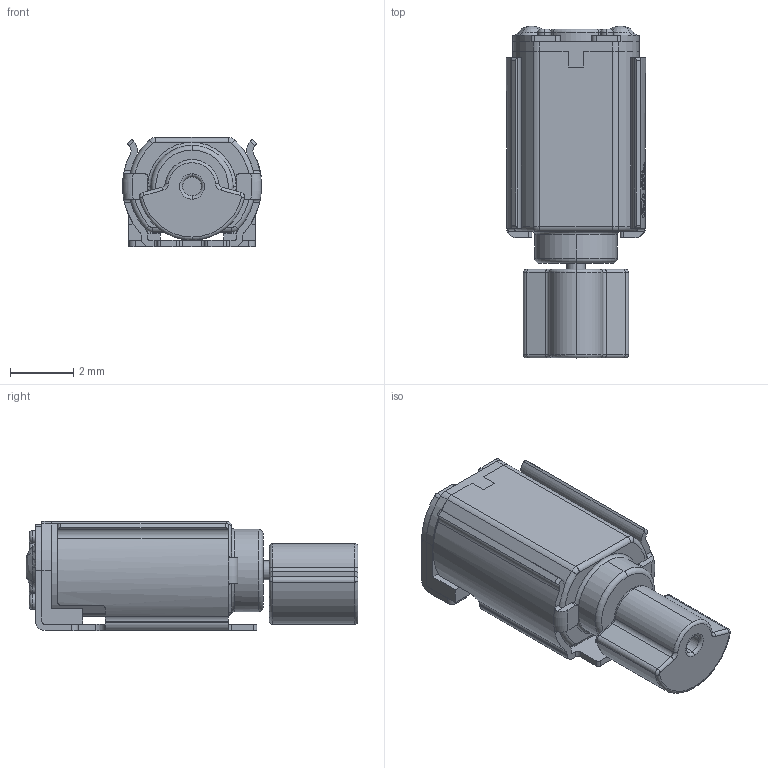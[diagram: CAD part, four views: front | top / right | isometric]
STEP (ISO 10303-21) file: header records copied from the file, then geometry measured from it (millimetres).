
FILE_DESCRIPTION (( 'STEP AP214' ), '1' );
FILE_NAME ('VIBRATING-MOTOR-SMD_3P-C9900001680.step', '2022-08-04T09:21:56', ( '' ), ( '' ), 'SwSTEP 2.0', 'SolidWorks 2020', '' );
FILE_SCHEMA (( 'AUTOMOTIVE_DESIGN' ));
Length unit declared in the file: millimetre
Products named in the file (1): VIBRATING-MOTOR-SMD_3P-C9900001680
Bounding box: 4.4 x 10.5 x 3.45 mm (x, y, z)
Volume: 99.3 mm3; surface area: 305.8 mm2
Topology: 5 solids, 5 shells, 526 faces, 1387 edges, 894 vertices
Faces by surface type: plane 190, cylinder 144, bspline 144, torus 48
Entity records: 25144 total; most frequent: CARTESIAN_POINT 7792, ORIENTED_EDGE 2766, DIRECTION 1821, EDGE_CURVE 1383, VERTEX_POINT 894, AXIS2_PLACEMENT_3D 729, B_SPLINE_CURVE_WITH_KNOTS 674, EDGE_LOOP 553
